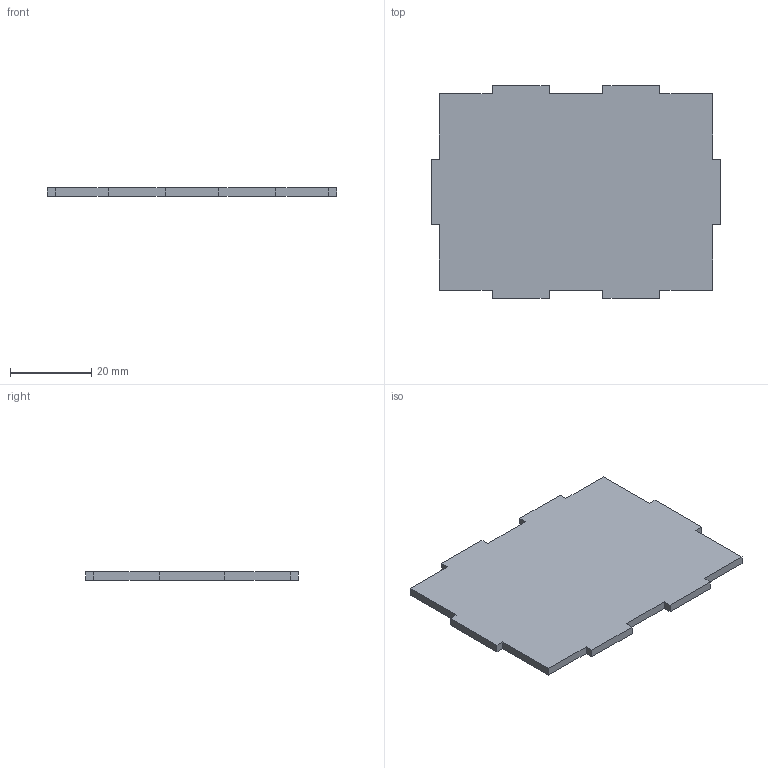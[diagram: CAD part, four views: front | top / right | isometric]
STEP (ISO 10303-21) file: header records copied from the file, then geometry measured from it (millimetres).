
FILE_DESCRIPTION(('FreeCAD Model'),'2;1');
FILE_NAME('Open CASCADE Shape Model','2025-03-08T17:23:58',(''),(''), 'Open CASCADE STEP processor 7.8','FreeCAD','Unknown');
FILE_SCHEMA(('AUTOMOTIVE_DESIGN { 1 0 10303 214 1 1 1 1 }'));
Length unit declared in the file: millimetre
Products named in the file (1): 屏
Bounding box: 71.2 x 52.2 x 2 mm (x, y, z)
Volume: 6831.7 mm3; surface area: 7341.3 mm2
Topology: 1 solids, 1 shells, 30 faces, 84 edges, 56 vertices
Faces by surface type: plane 30
Entity records: 970 total; most frequent: CARTESIAN_POINT 171, ORIENTED_EDGE 168, DIRECTION 146, EDGE_CURVE 84, LINE 84, VECTOR 84, VERTEX_POINT 56, AXIS2_PLACEMENT_3D 31
